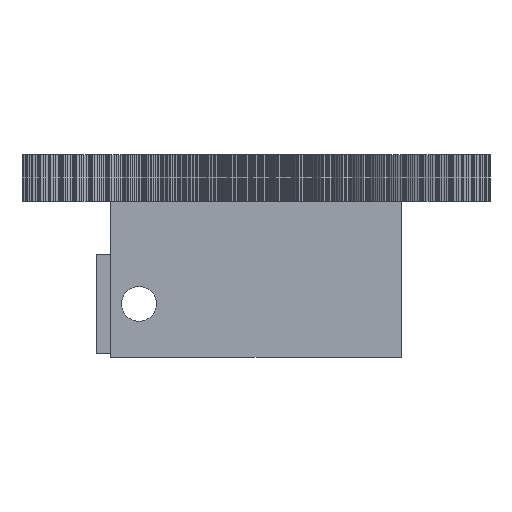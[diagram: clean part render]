
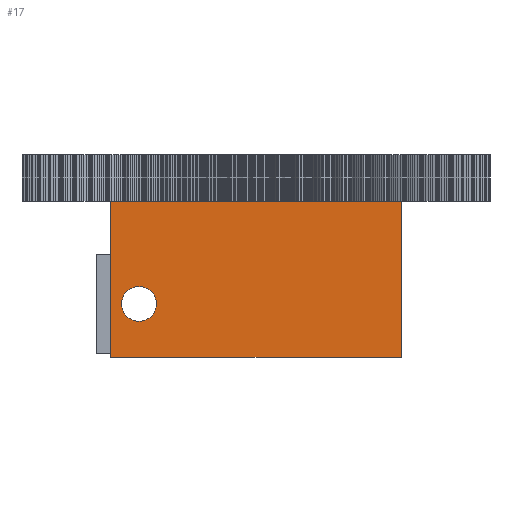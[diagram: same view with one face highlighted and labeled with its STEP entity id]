
A CAD part, left-side view. The second image highlights one B-rep face of the part: STEP entity #17.
In plain terms, the highlighted planar face has unit normal (-1, 0, 0).
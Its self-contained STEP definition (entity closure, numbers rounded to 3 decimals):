
#17 = ADVANCED_FACE('',(#18,#135),#32,.F.);
#18 = FACE_BOUND('',#19,.F.);
#19 = EDGE_LOOP('',(#20,#55,#83,#111));
#20 = ORIENTED_EDGE('',*,*,#21,.F.);
#21 = EDGE_CURVE('',#22,#24,#26,.T.);
#22 = VERTEX_POINT('',#23);
#23 = CARTESIAN_POINT('',(-24.,-20.5,-35.));
#24 = VERTEX_POINT('',#25);
#25 = CARTESIAN_POINT('',(-24.,-20.5,-13.));
#26 = SURFACE_CURVE('',#27,(#31,#43),.PCURVE_S1.);
#27 = LINE('',#28,#29);
#28 = CARTESIAN_POINT('',(-24.,-20.5,-35.));
#29 = VECTOR('',#30,1.);
#30 = DIRECTION('',(0.,0.,1.));
#31 = PCURVE('',#32,#37);
#32 = PLANE('',#33);
#33 = AXIS2_PLACEMENT_3D('',#34,#35,#36);
#34 = CARTESIAN_POINT('',(-24.,-20.5,-35.));
#35 = DIRECTION('',(1.,0.,0.));
#36 = DIRECTION('',(0.,0.,1.));
#37 = DEFINITIONAL_REPRESENTATION('',(#38),#42);
#38 = LINE('',#39,#40);
#39 = CARTESIAN_POINT('',(0.,0.));
#40 = VECTOR('',#41,1.);
#41 = DIRECTION('',(1.,0.));
#42 = ( GEOMETRIC_REPRESENTATION_CONTEXT(2) 
PARAMETRIC_REPRESENTATION_CONTEXT() REPRESENTATION_CONTEXT('2D SPACE',''
  ) );
#43 = PCURVE('',#44,#49);
#44 = PLANE('',#45);
#45 = AXIS2_PLACEMENT_3D('',#46,#47,#48);
#46 = CARTESIAN_POINT('',(-24.,-20.5,-35.));
#47 = DIRECTION('',(0.,1.,0.));
#48 = DIRECTION('',(0.,0.,1.));
#49 = DEFINITIONAL_REPRESENTATION('',(#50),#54);
#50 = LINE('',#51,#52);
#51 = CARTESIAN_POINT('',(0.,0.));
#52 = VECTOR('',#53,1.);
#53 = DIRECTION('',(1.,0.));
#54 = ( GEOMETRIC_REPRESENTATION_CONTEXT(2) 
PARAMETRIC_REPRESENTATION_CONTEXT() REPRESENTATION_CONTEXT('2D SPACE',''
  ) );
#55 = ORIENTED_EDGE('',*,*,#56,.T.);
#56 = EDGE_CURVE('',#22,#57,#59,.T.);
#57 = VERTEX_POINT('',#58);
#58 = CARTESIAN_POINT('',(-24.,20.5,-35.));
#59 = SURFACE_CURVE('',#60,(#64,#71),.PCURVE_S1.);
#60 = LINE('',#61,#62);
#61 = CARTESIAN_POINT('',(-24.,-20.5,-35.));
#62 = VECTOR('',#63,1.);
#63 = DIRECTION('',(0.,1.,0.));
#64 = PCURVE('',#32,#65);
#65 = DEFINITIONAL_REPRESENTATION('',(#66),#70);
#66 = LINE('',#67,#68);
#67 = CARTESIAN_POINT('',(0.,0.));
#68 = VECTOR('',#69,1.);
#69 = DIRECTION('',(0.,-1.));
#70 = ( GEOMETRIC_REPRESENTATION_CONTEXT(2) 
PARAMETRIC_REPRESENTATION_CONTEXT() REPRESENTATION_CONTEXT('2D SPACE',''
  ) );
#71 = PCURVE('',#72,#77);
#72 = PLANE('',#73);
#73 = AXIS2_PLACEMENT_3D('',#74,#75,#76);
#74 = CARTESIAN_POINT('',(-24.,-20.5,-35.));
#75 = DIRECTION('',(0.,0.,1.));
#76 = DIRECTION('',(1.,0.,0.));
#77 = DEFINITIONAL_REPRESENTATION('',(#78),#82);
#78 = LINE('',#79,#80);
#79 = CARTESIAN_POINT('',(0.,0.));
#80 = VECTOR('',#81,1.);
#81 = DIRECTION('',(0.,1.));
#82 = ( GEOMETRIC_REPRESENTATION_CONTEXT(2) 
PARAMETRIC_REPRESENTATION_CONTEXT() REPRESENTATION_CONTEXT('2D SPACE',''
  ) );
#83 = ORIENTED_EDGE('',*,*,#84,.T.);
#84 = EDGE_CURVE('',#57,#85,#87,.T.);
#85 = VERTEX_POINT('',#86);
#86 = CARTESIAN_POINT('',(-24.,20.5,-13.));
#87 = SURFACE_CURVE('',#88,(#92,#99),.PCURVE_S1.);
#88 = LINE('',#89,#90);
#89 = CARTESIAN_POINT('',(-24.,20.5,-35.));
#90 = VECTOR('',#91,1.);
#91 = DIRECTION('',(0.,0.,1.));
#92 = PCURVE('',#32,#93);
#93 = DEFINITIONAL_REPRESENTATION('',(#94),#98);
#94 = LINE('',#95,#96);
#95 = CARTESIAN_POINT('',(0.,-41.));
#96 = VECTOR('',#97,1.);
#97 = DIRECTION('',(1.,0.));
#98 = ( GEOMETRIC_REPRESENTATION_CONTEXT(2) 
PARAMETRIC_REPRESENTATION_CONTEXT() REPRESENTATION_CONTEXT('2D SPACE',''
  ) );
#99 = PCURVE('',#100,#105);
#100 = PLANE('',#101);
#101 = AXIS2_PLACEMENT_3D('',#102,#103,#104);
#102 = CARTESIAN_POINT('',(-24.,20.5,-35.));
#103 = DIRECTION('',(0.,1.,0.));
#104 = DIRECTION('',(0.,0.,1.));
#105 = DEFINITIONAL_REPRESENTATION('',(#106),#110);
#106 = LINE('',#107,#108);
#107 = CARTESIAN_POINT('',(0.,0.));
#108 = VECTOR('',#109,1.);
#109 = DIRECTION('',(1.,0.));
#110 = ( GEOMETRIC_REPRESENTATION_CONTEXT(2) 
PARAMETRIC_REPRESENTATION_CONTEXT() REPRESENTATION_CONTEXT('2D SPACE',''
  ) );
#111 = ORIENTED_EDGE('',*,*,#112,.T.);
#112 = EDGE_CURVE('',#85,#24,#113,.T.);
#113 = SURFACE_CURVE('',#114,(#118,#124),.PCURVE_S1.);
#114 = LINE('',#115,#116);
#115 = CARTESIAN_POINT('',(-24.,-10.25,-13.));
#116 = VECTOR('',#117,1.);
#117 = DIRECTION('',(0.,-1.,0.));
#118 = PCURVE('',#32,#119);
#119 = DEFINITIONAL_REPRESENTATION('',(#120),#123);
#120 = B_SPLINE_CURVE_WITH_KNOTS('',1,(#121,#122),.UNSPECIFIED.,.F.,.F.,
  (2,2),(-30.75,10.25),.PIECEWISE_BEZIER_KNOTS.);
#121 = CARTESIAN_POINT('',(22.,-41.));
#122 = CARTESIAN_POINT('',(22.,0.));
#123 = ( GEOMETRIC_REPRESENTATION_CONTEXT(2) 
PARAMETRIC_REPRESENTATION_CONTEXT() REPRESENTATION_CONTEXT('2D SPACE',''
  ) );
#124 = PCURVE('',#125,#130);
#125 = PLANE('',#126);
#126 = AXIS2_PLACEMENT_3D('',#127,#128,#129);
#127 = CARTESIAN_POINT('',(0.,0.,-13.)
  );
#128 = DIRECTION('',(0.,0.,1.));
#129 = DIRECTION('',(1.,0.,-0.));
#130 = DEFINITIONAL_REPRESENTATION('',(#131),#134);
#131 = B_SPLINE_CURVE_WITH_KNOTS('',1,(#132,#133),.UNSPECIFIED.,.F.,.F.,
  (2,2),(-30.75,10.25),.PIECEWISE_BEZIER_KNOTS.);
#132 = CARTESIAN_POINT('',(-24.,20.5));
#133 = CARTESIAN_POINT('',(-24.,-20.5));
#134 = ( GEOMETRIC_REPRESENTATION_CONTEXT(2) 
PARAMETRIC_REPRESENTATION_CONTEXT() REPRESENTATION_CONTEXT('2D SPACE',''
  ) );
#135 = FACE_BOUND('',#136,.F.);
#136 = EDGE_LOOP('',(#137));
#137 = ORIENTED_EDGE('',*,*,#138,.T.);
#138 = EDGE_CURVE('',#139,#139,#141,.T.);
#139 = VERTEX_POINT('',#140);
#140 = CARTESIAN_POINT('',(-24.,14.05,-27.5));
#141 = SURFACE_CURVE('',#142,(#147,#158),.PCURVE_S1.);
#142 = CIRCLE('',#143,2.45);
#143 = AXIS2_PLACEMENT_3D('',#144,#145,#146);
#144 = CARTESIAN_POINT('',(-24.,16.5,-27.5));
#145 = DIRECTION('',(-1.,-0.,0.));
#146 = DIRECTION('',(0.,-1.,0.));
#147 = PCURVE('',#32,#148);
#148 = DEFINITIONAL_REPRESENTATION('',(#149),#157);
#149 = ( BOUNDED_CURVE() B_SPLINE_CURVE(2,(#150,#151,#152,#153,#154,#155
,#156),.UNSPECIFIED.,.T.,.F.) B_SPLINE_CURVE_WITH_KNOTS((1,2,2,2,2,1),(
    -2.094,0.,2.094,4.189,6.283,
8.378),.UNSPECIFIED.) CURVE() GEOMETRIC_REPRESENTATION_ITEM() 
RATIONAL_B_SPLINE_CURVE((1.,0.5,1.,0.5,1.,0.5,1.)) REPRESENTATION_ITEM(
  '') );
#150 = CARTESIAN_POINT('',(7.5,-34.55));
#151 = CARTESIAN_POINT('',(11.744,-34.55));
#152 = CARTESIAN_POINT('',(9.622,-38.225));
#153 = CARTESIAN_POINT('',(7.5,-41.9));
#154 = CARTESIAN_POINT('',(5.378,-38.225));
#155 = CARTESIAN_POINT('',(3.256,-34.55));
#156 = CARTESIAN_POINT('',(7.5,-34.55));
#157 = ( GEOMETRIC_REPRESENTATION_CONTEXT(2) 
PARAMETRIC_REPRESENTATION_CONTEXT() REPRESENTATION_CONTEXT('2D SPACE',''
  ) );
#158 = PCURVE('',#159,#164);
#159 = CYLINDRICAL_SURFACE('',#160,2.45);
#160 = AXIS2_PLACEMENT_3D('',#161,#162,#163);
#161 = CARTESIAN_POINT('',(-25.,16.5,-27.5));
#162 = DIRECTION('',(-1.,-0.,-0.));
#163 = DIRECTION('',(0.,-1.,0.));
#164 = DEFINITIONAL_REPRESENTATION('',(#165),#169);
#165 = LINE('',#166,#167);
#166 = CARTESIAN_POINT('',(-6.283,-1.));
#167 = VECTOR('',#168,1.);
#168 = DIRECTION('',(1.,-0.));
#169 = ( GEOMETRIC_REPRESENTATION_CONTEXT(2) 
PARAMETRIC_REPRESENTATION_CONTEXT() REPRESENTATION_CONTEXT('2D SPACE',''
  ) );
